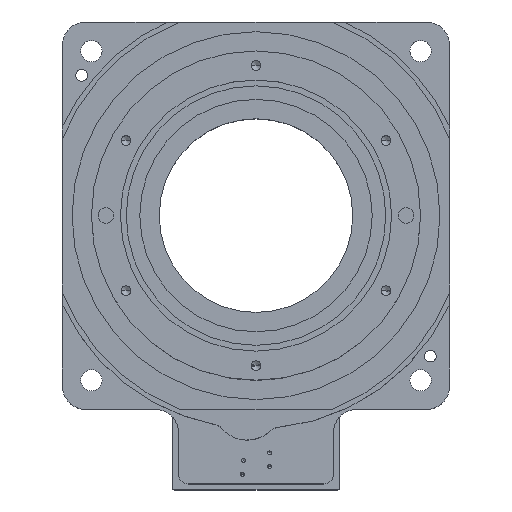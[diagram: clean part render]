
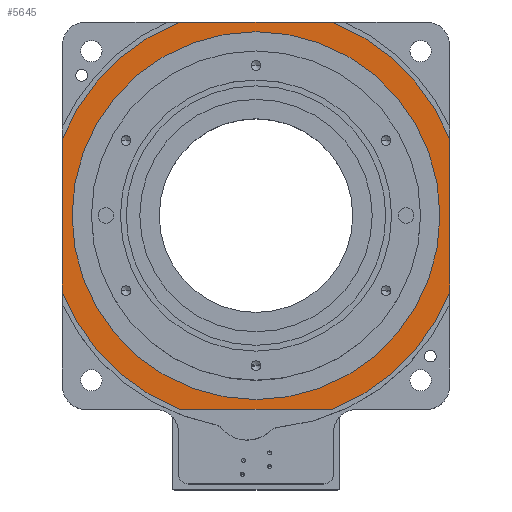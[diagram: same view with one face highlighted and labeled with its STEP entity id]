
A CAD part, top view. The second image highlights one B-rep face of the part: STEP entity #5645.
In plain terms, the highlighted planar face has unit normal (0, 0, 1).
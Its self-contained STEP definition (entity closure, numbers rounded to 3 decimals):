
#23 = AXIS2_PLACEMENT_3D ( 'NONE', #2928, #3827, #3349 ) ;
#66 = DIRECTION ( 'NONE',  ( 0., -1., 0. ) ) ;
#71 = VECTOR ( 'NONE', #3070, 1000. ) ;
#235 = VERTEX_POINT ( 'NONE', #2646 ) ;
#384 = EDGE_CURVE ( 'NONE', #3826, #3686, #3652, .T. ) ;
#416 = EDGE_CURVE ( 'NONE', #4545, #2910, #2787, .T. ) ;
#630 = EDGE_CURVE ( 'NONE', #2910, #4545, #4115, .T. ) ;
#714 = DIRECTION ( 'NONE',  ( 0., 0., -1. ) ) ;
#888 = CARTESIAN_POINT ( 'NONE',  ( -100., 88., 43. ) ) ;
#1149 = AXIS2_PLACEMENT_3D ( 'NONE', #1410, #4571, #5922 ) ;
#1152 = EDGE_CURVE ( 'NONE', #1947, #2372, #2768, .T. ) ;
#1224 = ORIENTED_EDGE ( 'NONE', *, *, #1226, .T. ) ;
#1226 = EDGE_CURVE ( 'NONE', #235, #1298, #2660, .T. ) ;
#1286 = ORIENTED_EDGE ( 'NONE', *, *, #1152, .T. ) ;
#1298 = VERTEX_POINT ( 'NONE', #3802 ) ;
#1381 = CARTESIAN_POINT ( 'NONE',  ( -100., -39.449, 43. ) ) ;
#1410 = CARTESIAN_POINT ( 'NONE',  ( 0., 0., 43. ) ) ;
#1568 = DIRECTION ( 'NONE',  ( 0., 0., 1. ) ) ;
#1646 = CARTESIAN_POINT ( 'NONE',  ( -100., 39.449, 43. ) ) ;
#1663 = FACE_BOUND ( 'NONE', #3351, .T. ) ;
#1810 = ORIENTED_EDGE ( 'NONE', *, *, #416, .F. ) ;
#1818 = AXIS2_PLACEMENT_3D ( 'NONE', #5793, #1568, #2075 ) ;
#1947 = VERTEX_POINT ( 'NONE', #2155 ) ;
#2075 = DIRECTION ( 'NONE',  ( 1., 0., 0. ) ) ;
#2138 = AXIS2_PLACEMENT_3D ( 'NONE', #4873, #714, #2569 ) ;
#2155 = CARTESIAN_POINT ( 'NONE',  ( 39.449, 100., 43. ) ) ;
#2165 = ORIENTED_EDGE ( 'NONE', *, *, #2474, .T. ) ;
#2192 = CARTESIAN_POINT ( 'NONE',  ( 0., 0., 43. ) ) ;
#2203 = CARTESIAN_POINT ( 'NONE',  ( -39.449, -100., 43. ) ) ;
#2372 = VERTEX_POINT ( 'NONE', #5478 ) ;
#2474 = EDGE_CURVE ( 'NONE', #3686, #235, #4193, .T. ) ;
#2494 = LINE ( 'NONE', #2620, #71 ) ;
#2563 = VECTOR ( 'NONE', #3732, 1000. ) ;
#2564 = EDGE_CURVE ( 'NONE', #3613, #3826, #5081, .T. ) ;
#2569 = DIRECTION ( 'NONE',  ( 0., -1., 0. ) ) ;
#2620 = CARTESIAN_POINT ( 'NONE',  ( 100., 88., 43. ) ) ;
#2634 = CARTESIAN_POINT ( 'NONE',  ( 95., 0., 43. ) ) ;
#2646 = CARTESIAN_POINT ( 'NONE',  ( 39.449, -100., 43. ) ) ;
#2660 = CIRCLE ( 'NONE', #23, 107.5 ) ;
#2711 = EDGE_CURVE ( 'NONE', #2886, #1947, #5149, .T. ) ;
#2768 = LINE ( 'NONE', #4582, #2563 ) ;
#2787 = CIRCLE ( 'NONE', #3372, 95. ) ;
#2886 = VERTEX_POINT ( 'NONE', #3086 ) ;
#2910 = VERTEX_POINT ( 'NONE', #2634 ) ;
#2928 = CARTESIAN_POINT ( 'NONE',  ( 0., 0., 43. ) ) ;
#3028 = PLANE ( 'NONE',  #2138 ) ;
#3070 = DIRECTION ( 'NONE',  ( 0., 1., 0. ) ) ;
#3086 = CARTESIAN_POINT ( 'NONE',  ( 100., 39.449, 43. ) ) ;
#3349 = DIRECTION ( 'NONE',  ( 1., 0., 0. ) ) ;
#3351 = EDGE_LOOP ( 'NONE', ( #5621, #1810 ) ) ;
#3372 = AXIS2_PLACEMENT_3D ( 'NONE', #5701, #5735, #5829 ) ;
#3526 = ORIENTED_EDGE ( 'NONE', *, *, #2564, .T. ) ;
#3613 = VERTEX_POINT ( 'NONE', #1646 ) ;
#3640 = VECTOR ( 'NONE', #66, 1000. ) ;
#3652 = CIRCLE ( 'NONE', #1818, 107.5 ) ;
#3686 = VERTEX_POINT ( 'NONE', #2203 ) ;
#3724 = ORIENTED_EDGE ( 'NONE', *, *, #4751, .T. ) ;
#3732 = DIRECTION ( 'NONE',  ( -1., 0., 0. ) ) ;
#3739 = EDGE_CURVE ( 'NONE', #2372, #3613, #4246, .T. ) ;
#3802 = CARTESIAN_POINT ( 'NONE',  ( 100., -39.449, 43. ) ) ;
#3826 = VERTEX_POINT ( 'NONE', #1381 ) ;
#3827 = DIRECTION ( 'NONE',  ( 0., 0., 1. ) ) ;
#3929 = DIRECTION ( 'NONE',  ( 0., 0., 1. ) ) ;
#4101 = DIRECTION ( 'NONE',  ( 1., 0., 0. ) ) ;
#4102 = ORIENTED_EDGE ( 'NONE', *, *, #3739, .T. ) ;
#4115 = CIRCLE ( 'NONE', #4899, 95. ) ;
#4162 = AXIS2_PLACEMENT_3D ( 'NONE', #4406, #3929, #5755 ) ;
#4193 = LINE ( 'NONE', #5179, #5683 ) ;
#4246 = CIRCLE ( 'NONE', #1149, 107.5 ) ;
#4406 = CARTESIAN_POINT ( 'NONE',  ( 0., 0., 43. ) ) ;
#4538 = EDGE_LOOP ( 'NONE', ( #4102, #3526, #4945, #2165, #1224, #3724, #5205, #1286 ) ) ;
#4545 = VERTEX_POINT ( 'NONE', #6009 ) ;
#4571 = DIRECTION ( 'NONE',  ( 0., 0., 1. ) ) ;
#4582 = CARTESIAN_POINT ( 'NONE',  ( -88., 100., 43. ) ) ;
#4751 = EDGE_CURVE ( 'NONE', #1298, #2886, #2494, .T. ) ;
#4873 = CARTESIAN_POINT ( 'NONE',  ( -88., -88., 43. ) ) ;
#4899 = AXIS2_PLACEMENT_3D ( 'NONE', #2192, #4964, #4101 ) ;
#4935 = FACE_OUTER_BOUND ( 'NONE', #4538, .T. ) ;
#4945 = ORIENTED_EDGE ( 'NONE', *, *, #384, .T. ) ;
#4964 = DIRECTION ( 'NONE',  ( 0., 0., 1. ) ) ;
#5081 = LINE ( 'NONE', #888, #3640 ) ;
#5149 = CIRCLE ( 'NONE', #4162, 107.5 ) ;
#5179 = CARTESIAN_POINT ( 'NONE',  ( -39.449, -100., 43. ) ) ;
#5205 = ORIENTED_EDGE ( 'NONE', *, *, #2711, .T. ) ;
#5478 = CARTESIAN_POINT ( 'NONE',  ( -39.449, 100., 43. ) ) ;
#5564 = DIRECTION ( 'NONE',  ( 1., 0., 0. ) ) ;
#5621 = ORIENTED_EDGE ( 'NONE', *, *, #630, .F. ) ;
#5645 = ADVANCED_FACE ( 'NONE', ( #4935, #1663 ), #3028, .F. ) ;
#5683 = VECTOR ( 'NONE', #5564, 1000. ) ;
#5701 = CARTESIAN_POINT ( 'NONE',  ( 0., 0., 43. ) ) ;
#5735 = DIRECTION ( 'NONE',  ( 0., 0., 1. ) ) ;
#5755 = DIRECTION ( 'NONE',  ( 1., 0., 0. ) ) ;
#5793 = CARTESIAN_POINT ( 'NONE',  ( 0., 0., 43. ) ) ;
#5829 = DIRECTION ( 'NONE',  ( 1., 0., 0. ) ) ;
#5922 = DIRECTION ( 'NONE',  ( 1., 0., 0. ) ) ;
#6009 = CARTESIAN_POINT ( 'NONE',  ( -95., 0., 43. ) ) ;
